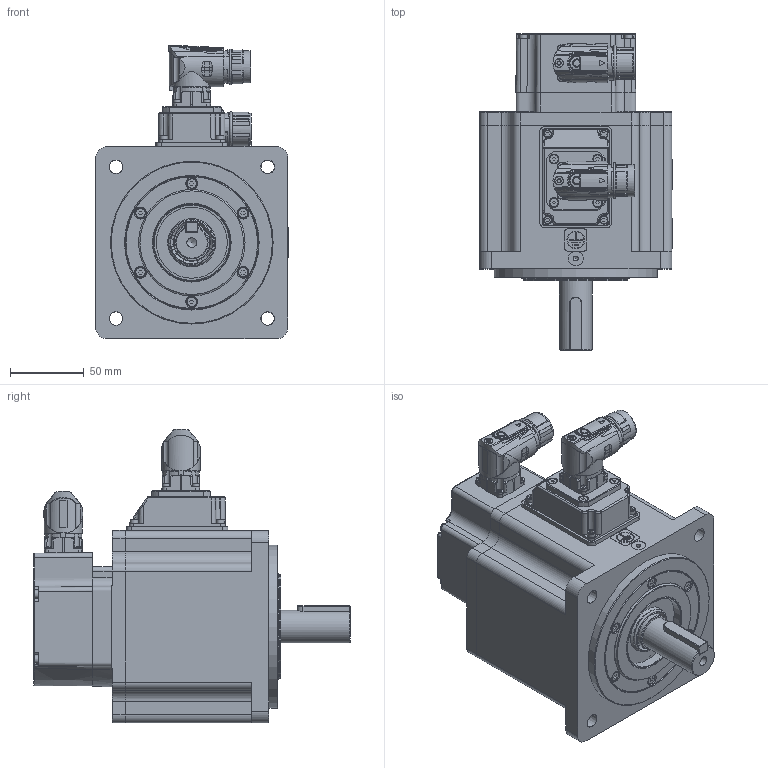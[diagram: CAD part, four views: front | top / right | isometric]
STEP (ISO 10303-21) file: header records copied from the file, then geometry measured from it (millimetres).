
FILE_DESCRIPTION( ( 'Unknown' ), '1' );
FILE_NAME( 'U:/05_Progetto TCE/010-TCE motor drawings/TCE130/Vuoti/TCE130 5A XX 3 A1 0 C2.stp', 'Unknown', ( 'Unknown' ), ( 'Unknown' ), 'PSStep 17.0.49', 'Unknown', ' ' );
FILE_SCHEMA( ( 'AUTOMOTIVE_DESIGN { 1 0 10303 214 1 1 1 1 }' ) );
Length unit declared in the file: millimetre
Products named in the file (13): 005123001528
Bounding box: 130.3 x 214 x 198.5 mm (x, y, z)
Volume: 955279.5 mm3; surface area: 304090.2 mm2
Topology: 13 solids, 85 shells, 2982 faces, 7446 edges, 4804 vertices
Faces by surface type: plane 1444, cylinder 734, cone 287, bspline 231, torus 167, sphere 81, extrusion 38
Full cylindrical faces by diameter (mm): 0.5 x1, 1 x21, 1.2 x17, 1.4 x4, 2 x4, 2.013 x4, 2.2 x2, 2.459 x23, 2.5 x8, 2.6 x4, 2.8 x4, 3 x29, 3.2 x1, 3.242 x24, 3.5 x8, 4 x15, 4.134 x16, 4.4 x4, 4.5 x12, 4.7 x4, 5 x8, 5.5 x20, 5.8 x1, 5.9 x2, 6.647 x2, 6.8 x1, 7 x10, 8 x10, 8.5 x8, 10 x1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
Entity records: 122683 total; most frequent: CARTESIAN_POINT 36661, DIRECTION 13166, ORIENTED_EDGE 12808, EDGE_CURVE 6404, AXIS2_PLACEMENT_3D 4935, VERTEX_POINT 4540, EDGE_LOOP 3972, FACE_OUTER_BOUND 3455
